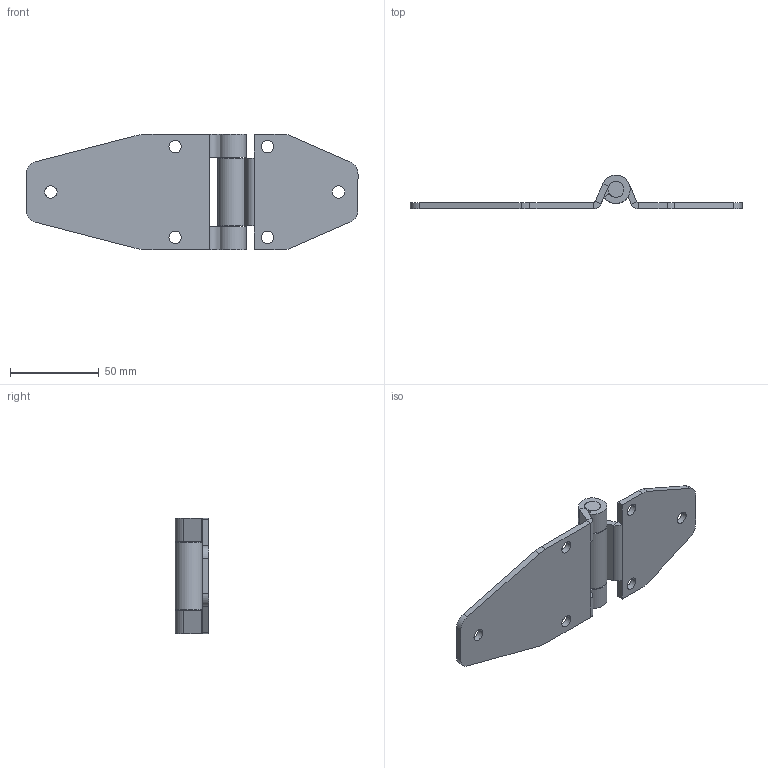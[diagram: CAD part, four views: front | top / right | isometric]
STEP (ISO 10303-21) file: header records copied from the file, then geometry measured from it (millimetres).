
FILE_DESCRIPTION (( 'STEP AP214' ), '1' );
FILE_NAME ('SK2-116.STEP', '2020-03-26T05:18:29', ( 'admin' ), ( 'Microsoft' ), 'SwSTEP 2.0', 'SolidWorks 2018', '' );
FILE_SCHEMA (( 'AUTOMOTIVE_DESIGN' ));
Length unit declared in the file: millimetre
Products named in the file (4): 2-116-F3; 2-116-F2; 2-116-F1; SK2-116
Assembly tree (3 placements, depth 2):
  SK2-116
    2-116-F1
    2-116-F2
    2-116-F3
Bounding box: 187 x 18.99 x 65 mm (x, y, z)
Volume: 44332.7 mm3; surface area: 28211.7 mm2
Topology: 3 solids, 3 shells, 73 faces, 179 edges, 112 vertices
Faces by surface type: plane 39, cylinder 34
Entity records: 2323 total; most frequent: DIRECTION 405, CARTESIAN_POINT 370, ORIENTED_EDGE 358, EDGE_CURVE 179, AXIS2_PLACEMENT_3D 147, VERTEX_POINT 112, VECTOR 111, LINE 111
